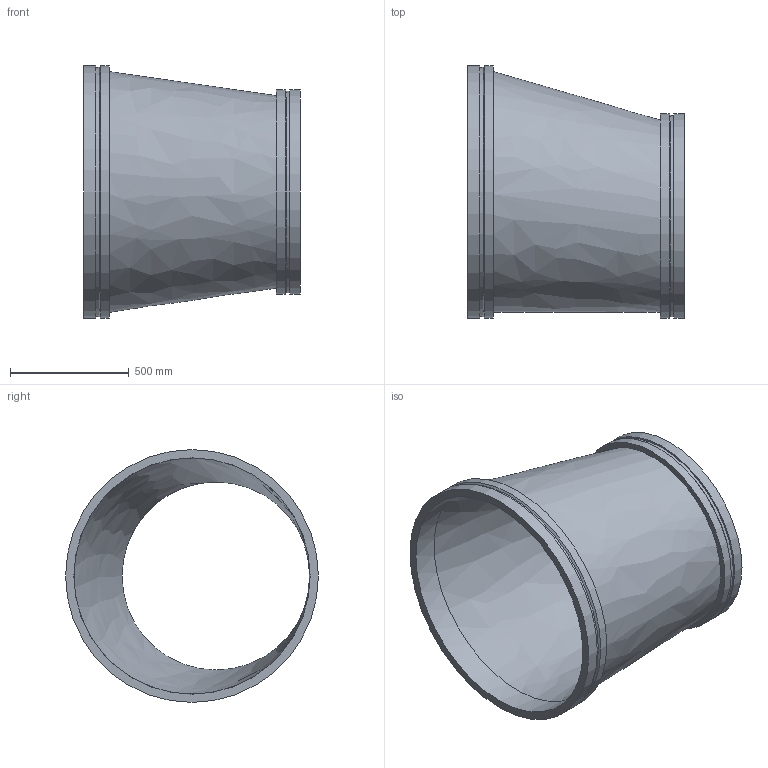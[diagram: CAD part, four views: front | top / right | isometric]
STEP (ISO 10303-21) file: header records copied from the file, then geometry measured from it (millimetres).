
FILE_DESCRIPTION(/* description */ ('VIC REDUCER ECCENTRIC No W51-VR','CAx-IF Rec.Pracs.---Representation and Presentation of Product Manufacturing Information (PMI)---4.0---2014-10-13'),/* implementation_level */ '2;1');
FILE_NAME(/* name */ 'C:\Users\kkamble\AppData\Roaming\Autodesk\ApplicationPlugins\Back Up\Victaulic_Vic-Ring_Reducer Eccentric_No W51 VR (AGR)\Victaulic_Vic-Ring_Reducer Eccentric_No W51 VR (AGR)_40.0x32.0 (1000x800).stp',/* time_stamp */ '2020-09-10T11:50:57+05:00',/* author */ ('CONSTRUCTION PIPING SERVICES'),/* organization */ ('Victaulic'),/* preprocessor_version */ 'ST-DEVELOPER v17.2',/* originating_system */ 'Autodesk Inventor 2019',/* authorisation */ '');
FILE_SCHEMA (('AP242_MANAGED_MODEL_BASED_3D_ENGINEERING_MIM_LF { 1 0 10303 442 1 1 4 }'));
Length unit declared in the file: inch
Products named in the file (1): W51 VR-40.0x32.0
Bounding box: 914.4 x 1066.8 x 1066.8 mm (x, y, z)
Volume: 39755436.6 mm3; surface area: 5717646.7 mm2
Topology: 1 solids, 1 shells, 18 faces, 49 edges, 37 vertices
Faces by surface type: cylinder 8, plane 6, cone 2, bspline 2
Full cylindrical faces by diameter (mm): 793.75 x1, 849.122 x1, 863.6 x2, 996.95 x1, 1050.925 x1, 1066.8 x2
Entity records: 792 total; most frequent: CARTESIAN_POINT 158, DIRECTION 144, ORIENTED_EDGE 98, AXIS2_PLACEMENT_3D 67, EDGE_CURVE 49, CIRCLE 37, VERTEX_POINT 37, EDGE_LOOP 24
